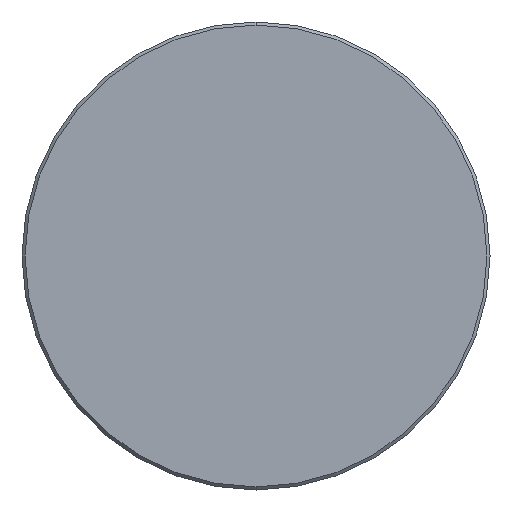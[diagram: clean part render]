
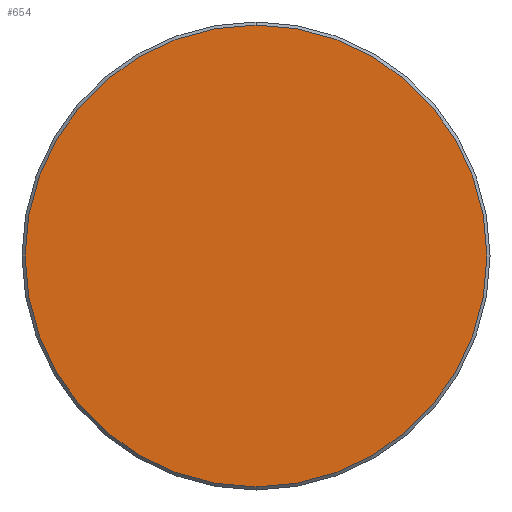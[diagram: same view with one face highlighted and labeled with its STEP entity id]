
A CAD part, front view. The second image highlights one B-rep face of the part: STEP entity #654.
In plain terms, the highlighted planar face has unit normal (0, -1, 0).
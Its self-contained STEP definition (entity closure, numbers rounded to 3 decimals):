
#200 = CIRCLE ( 'NONE', #483, 29.6 ) ;
#257 = VERTEX_POINT ( 'NONE', #722 ) ;
#339 = CARTESIAN_POINT ( 'NONE',  ( 0., 0., 0. ) ) ;
#431 = EDGE_CURVE ( 'NONE', #721, #257, #200, .T. ) ;
#434 = CARTESIAN_POINT ( 'NONE',  ( 0., 0., 0. ) ) ;
#483 = AXIS2_PLACEMENT_3D ( 'NONE', #1423, #773, #923 ) ;
#547 = DIRECTION ( 'NONE',  ( 0., 0., 1. ) ) ;
#654 = ADVANCED_FACE ( 'NONE', ( #1008 ), #1533, .F. ) ;
#721 = VERTEX_POINT ( 'NONE', #1161 ) ;
#722 = CARTESIAN_POINT ( 'NONE',  ( 0., 0., -29.6 ) ) ;
#773 = DIRECTION ( 'NONE',  ( 0., -1., 0. ) ) ;
#876 = DIRECTION ( 'NONE',  ( 0., 1., 0. ) ) ;
#923 = DIRECTION ( 'NONE',  ( 0., 0., 1. ) ) ;
#1008 = FACE_OUTER_BOUND ( 'NONE', #1479, .T. ) ;
#1161 = CARTESIAN_POINT ( 'NONE',  ( 0., 0., 29.6 ) ) ;
#1175 = AXIS2_PLACEMENT_3D ( 'NONE', #339, #876, #1406 ) ;
#1211 = AXIS2_PLACEMENT_3D ( 'NONE', #434, #1633, #547 ) ;
#1406 = DIRECTION ( 'NONE',  ( 0., 0., 1. ) ) ;
#1423 = CARTESIAN_POINT ( 'NONE',  ( 0., 0., 0. ) ) ;
#1458 = ORIENTED_EDGE ( 'NONE', *, *, #431, .T. ) ;
#1479 = EDGE_LOOP ( 'NONE', ( #1458, #1589 ) ) ;
#1533 = PLANE ( 'NONE',  #1175 ) ;
#1589 = ORIENTED_EDGE ( 'NONE', *, *, #1650, .T. ) ;
#1633 = DIRECTION ( 'NONE',  ( 0., -1., 0. ) ) ;
#1646 = CIRCLE ( 'NONE', #1211, 29.6 ) ;
#1650 = EDGE_CURVE ( 'NONE', #257, #721, #1646, .T. ) ;
